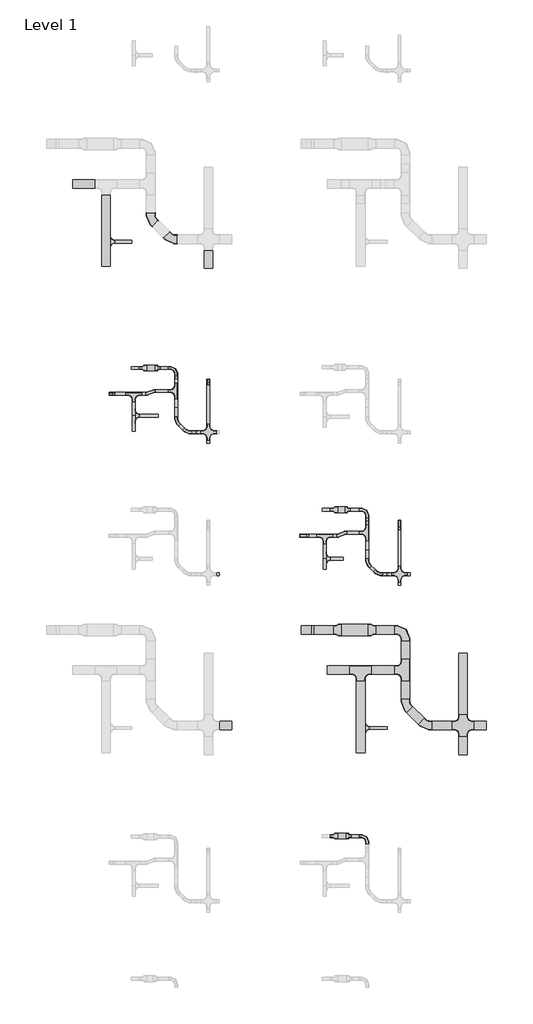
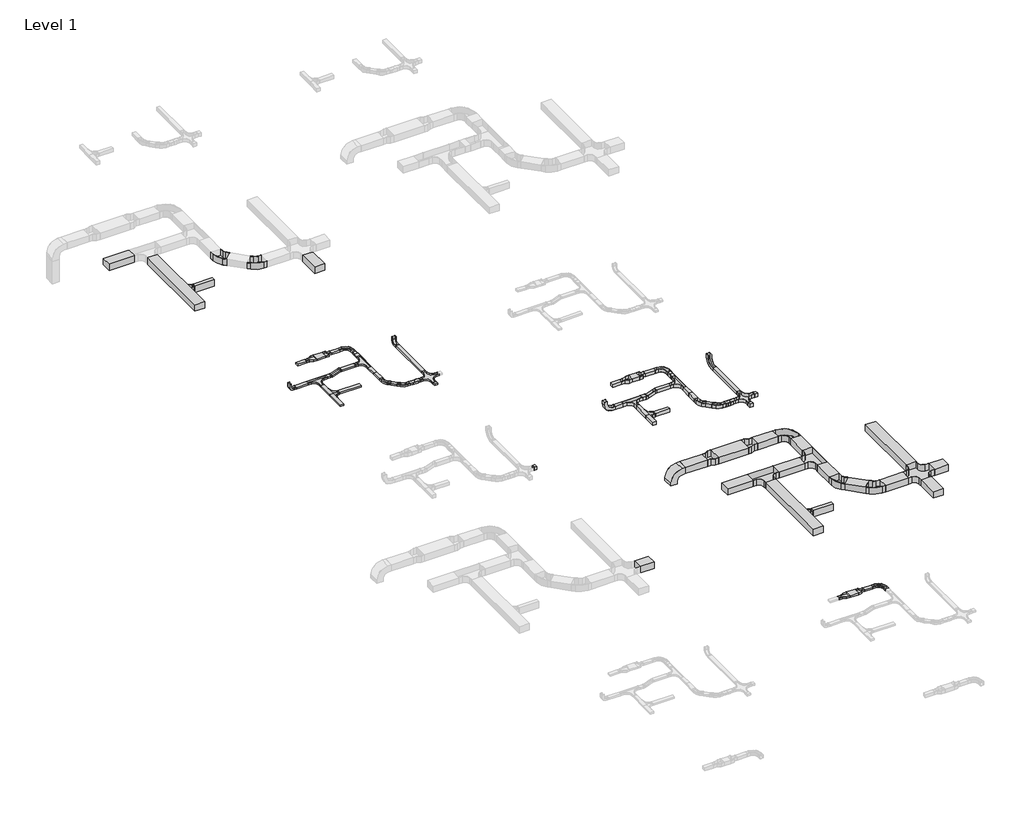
# One storey, part 5 of 7: 59 cable carrier segments, 44 cable carrier fittings.
"""IFC4 building model written with IfcOpenShell, lengths in millimetres."""

from ifc_helpers import new_model, si_unit, frame, origin, origin_with_axes, place, context, project, spatial, polyline, outline, extrude, transform, mapped, element, save
from components import cable_carrier_fitting_aaacfa07, cable_carrier_fitting_b0ef1419, cable_carrier_fitting_b06f5239, cable_carrier_fitting_c29a8226, cable_carrier_fitting_143960b7, cable_carrier_fitting_cc7a867a, cable_carrier_fitting_c2d22de5, cable_carrier_fitting_7e9f8960, cable_carrier_fitting_4de17e9c, cable_carrier_fitting_9eb58628, cable_carrier_fitting_43fa0a0a, cable_carrier_fitting_3771e234, cable_carrier_fitting_3d14474d, cable_carrier_fitting_02b181c7, cable_carrier_fitting_d4cb8d73, cable_carrier_fitting_69659a00, cable_carrier_fitting_f591b558, cable_carrier_fitting_a9251f7c, cable_carrier_fitting_ed02f7b7, cable_carrier_fitting_91e97af7, cable_carrier_fitting_4019ad99, cable_carrier_fitting_eaf42c59, cable_carrier_fitting_6664680e, cable_carrier_fitting_0d8af748, cable_carrier_fitting_d9c8c3b4, cable_carrier_fitting_cb4cf4fc, rkh100_6825da00, rkh50_caab6538

model = new_model("IFC4")

# Units and contexts
model_context = context("Model", 3, world=origin())
ifc_project = project(units=[si_unit("LENGTHUNIT", "METRE", prefix="MILLI")], contexts=[model_context])

# Site, building, storey
site = spatial("IfcSite", under=ifc_project)
building = spatial("IfcBuilding", under=site)
storey = spatial("IfcBuildingStorey", under=building, Name="Level 1", Elevation=0.0)

# Cable carrier fittings
placement = place(None, origin())
cable_carrier_fitting_shape = cable_carrier_fitting_aaacfa07(model_context)
element("IfcCableCarrierFitting", 1, ObjectType="BAKS_Plate_connector : LZCH100", at=placement, inside=storey, context=model_context, shape_type="MappedRepresentation", body=[
    mapped(cable_carrier_fitting_shape, transform((-10770.1659964, 47149.0221963, 50.0), x_axis=(0.0, -1.0, 0.0), y_axis=(1.0, 0.0, 0.0), z_axis=(0.0, 0.0, 1.0))),
])
element("IfcCableCarrierFitting", 2, ObjectType="BAKS_Plate_connector : LZCH100", at=placement, inside=storey, context=model_context, shape_type="MappedRepresentation", body=[
    mapped(cable_carrier_fitting_shape, transform((-10081.6917019, 45308.6669458, 50.0), x_axis=(-1.0, 0.0, 0.0), y_axis=(0.0, -1.0, 0.0), z_axis=(0.0, 0.0, 1.0))),
])
cable_carrier_fitting_2_shape = cable_carrier_fitting_b0ef1419(model_context)
element("IfcCableCarrierFitting", 3, ObjectType="BAKS_Plate_connector : LZCH50", at=placement, inside=storey, context=model_context, shape_type="MappedRepresentation", body=[
    mapped(cable_carrier_fitting_2_shape, transform((-17370.1659964, 52049.0221963, 50.0), x_axis=(0.0, -1.0, 0.0), y_axis=(1.0, 0.0, 0.0), z_axis=(0.0, 0.0, 1.0))),
])
element("IfcCableCarrierFitting", 4, ObjectType="BAKS_Plate_connector : LZCH50", at=placement, inside=storey, context=model_context, shape_type="MappedRepresentation", body=[
    mapped(cable_carrier_fitting_2_shape, transform((-16681.6917019, 50208.6669458, 50.0), x_axis=(-1.0, 0.0, 0.0), y_axis=(0.0, -1.0, 0.0), z_axis=(0.0, 0.0, 1.0))),
])
cable_carrier_fitting_3_shape = cable_carrier_fitting_b06f5239(model_context)
element("IfcCableCarrierFitting", 5, ObjectType="BAKS_Tee_TKZD : TKZDPH200", at=placement, inside=storey, context=model_context, shape_type="MappedRepresentation", body=[
    mapped(cable_carrier_fitting_3_shape, transform((-19642.1461338, 56790.6717205, 0.0), x_axis=(0.0, 1.0, 0.0), y_axis=(-1.0, 0.0, 0.0), z_axis=(0.0, 0.0, 1.0))),
])
element("IfcCableCarrierFitting", 6, ObjectType="BAKS_Tee_TKZD : TKZDPH200", at=placement, inside=storey, context=model_context, shape_type="MappedRepresentation", body=[
    mapped(cable_carrier_fitting_3_shape, transform((-10842.1461338, 39990.6717205, 0.0), x_axis=(0.0, 1.0, 0.0), y_axis=(-1.0, 0.0, 0.0), z_axis=(0.0, 0.0, 1.0))),
])
cable_carrier_fitting_4_shape = cable_carrier_fitting_c29a8226(model_context)
element("IfcCableCarrierFitting", 7, ObjectType="BAKS_Tee_TKZD : TKZDPH50", at=placement, inside=storey, context=model_context, shape_type="MappedRepresentation", body=[
    mapped(cable_carrier_fitting_4_shape, transform((-18785.25983, 50776.7469669, 50.0), x_axis=(0.0, 1.0, 0.0), y_axis=(-1.0, 0.0, 0.0), z_axis=(0.0, 0.0, 1.0))),
])
cable_carrier_fitting_5_shape = cable_carrier_fitting_143960b7(model_context)
element("IfcCableCarrierFitting", 8, ObjectType="BAKS_Tee_TKZD : TKZDPH100", at=placement, inside=storey, context=model_context, shape_type="MappedRepresentation", body=[
    mapped(cable_carrier_fitting_5_shape, transform((-12185.25983, 45837.8311496, 50.0), x_axis=(0.0, 1.0, 0.0), y_axis=(-1.0, 0.0, 0.0), z_axis=(0.0, 0.0, 1.0))),
])
cable_carrier_fitting_6_shape = cable_carrier_fitting_cc7a867a(model_context)
element("IfcCableCarrierFitting", 9, ObjectType="BAKS_Tee_TKZ : TKZPH50", at=placement, inside=storey, context=model_context, shape_type="MappedRepresentation", body=[
    mapped(cable_carrier_fitting_6_shape, transform((-18835.25983, 51536.0286879, 50.0), x_axis=(1.0, 0.0, 0.0), y_axis=(0.0, 1.0, 0.0), z_axis=(0.0, 0.0, 1.0))),
])
element("IfcCableCarrierFitting", 10, ObjectType="BAKS_Tee_TKZ : TKZPH50", at=placement, inside=storey, context=model_context, shape_type="MappedRepresentation", body=[
    mapped(cable_carrier_fitting_6_shape, transform((-17370.1659964, 51636.0286879, 50.0), x_axis=(0.0, -1.0, 0.0), y_axis=(1.0, 0.0, 0.0), z_axis=(0.0, 0.0, 1.0))),
])
cable_carrier_fitting_7_shape = cable_carrier_fitting_c2d22de5(model_context)
element("IfcCableCarrierFitting", 11, ObjectType="BAKS_Tee_TKZ : TKZCH100", at=placement, inside=storey, context=model_context, shape_type="MappedRepresentation", body=[
    mapped(cable_carrier_fitting_7_shape, transform((-12235.25983, 46636.0286879, 50.0), x_axis=(1.0, 0.0, 0.0), y_axis=(0.0, 1.0, 0.0), z_axis=(0.0, 0.0, 1.0))),
])
element("IfcCableCarrierFitting", 12, ObjectType="BAKS_Tee_TKZ : TKZCH100", at=placement, inside=storey, context=model_context, shape_type="MappedRepresentation", body=[
    mapped(cable_carrier_fitting_7_shape, transform((-10770.1659964, 46736.0286879, 50.0), x_axis=(0.0, -1.0, 0.0), y_axis=(1.0, 0.0, 0.0), z_axis=(0.0, 0.0, 1.0))),
])
cable_carrier_fitting_8_shape = cable_carrier_fitting_7e9f8960(model_context)
element("IfcCableCarrierFitting", 13, ObjectType="BAKS_Cross-section_CZKZ : CZKZCH100", at=placement, inside=storey, context=model_context, shape_type="MappedRepresentation", body=[
    mapped(cable_carrier_fitting_8_shape, transform((-9653.0791495, 45308.6669458, 50.0), x_axis=(1.0, 0.0, 0.0), y_axis=(0.0, 1.0, 0.0), z_axis=(0.0, 0.0, 1.0))),
])
cable_carrier_fitting_9_shape = cable_carrier_fitting_4de17e9c(model_context)
element("IfcCableCarrierFitting", 14, ObjectType="BAKS_Cross-section_CZKZ : CZKZPH50", at=placement, inside=storey, context=model_context, shape_type="MappedRepresentation", body=[
    mapped(cable_carrier_fitting_9_shape, transform((-16253.0791495, 50208.6669458, 50.0), x_axis=(-1.0, 0.0, 0.0), y_axis=(0.0, -1.0, 0.0), z_axis=(0.0, 0.0, 1.0))),
])
cable_carrier_fitting_10_shape = cable_carrier_fitting_9eb58628(model_context)
element("IfcCableCarrierFitting", 15, ObjectType="BAKS_Reduction-symmetrical_RKZ : RKZPH50", at=placement, inside=storey, context=model_context, shape_type="MappedRepresentation", body=[
    mapped(cable_carrier_fitting_10_shape, transform((-18365.6659964, 52432.0157047, 50.0), x_axis=(-1.0, 0.0, 0.0), y_axis=(0.0, -1.0, 0.0), z_axis=(0.0, 0.0, 1.0))),
])
element("IfcCableCarrierFitting", 16, ObjectType="BAKS_Reduction-symmetrical_RKZ : RKZCH50", at=placement, inside=storey, context=model_context, shape_type="MappedRepresentation", body=[
    mapped(cable_carrier_fitting_10_shape, transform((-11765.6659964, 36257.0157047, 50.0), x_axis=(-1.0, 0.0, 0.0), y_axis=(0.0, -1.0, 0.0), z_axis=(0.0, 0.0, 1.0))),
])
cable_carrier_fitting_11_shape = cable_carrier_fitting_43fa0a0a(model_context)
element("IfcCableCarrierFitting", 17, ObjectType="BAKS_Reduction-symmetrical_RKZ : RKZCH100", at=placement, inside=storey, context=model_context, shape_type="MappedRepresentation", body=[
    mapped(cable_carrier_fitting_11_shape, transform((-11765.6659964, 47532.0157047, 50.0), x_axis=(-1.0, 0.0, 0.0), y_axis=(0.0, -1.0, 0.0), z_axis=(0.0, 0.0, 1.0))),
])
cable_carrier_fitting_12_shape = cable_carrier_fitting_3771e234(model_context)
element("IfcCableCarrierFitting", 18, ObjectType="BAKS_Bypass_horizontal_left_OPZL : OPZLCH100", at=placement, inside=storey, context=model_context, shape_type="MappedRepresentation", body=[
    mapped(cable_carrier_fitting_12_shape, transform((-11655.25983, 46686.0286879, 0.0), x_axis=(1.0, 0.0, 0.0), y_axis=(0.0, 1.0, 0.0), z_axis=(0.0, 0.0, 1.0))),
])
cable_carrier_fitting_13_shape = cable_carrier_fitting_3d14474d(model_context)
element("IfcCableCarrierFitting", 19, ObjectType="BAKS_Bypass_horizontal_left_OPZL : OPZLPH50", at=placement, inside=storey, context=model_context, shape_type="MappedRepresentation", body=[
    mapped(cable_carrier_fitting_13_shape, transform((-18255.25983, 51586.0286879, 25.0), x_axis=(1.0, 0.0, 0.0), y_axis=(0.0, 1.0, 0.0), z_axis=(0.0, 0.0, 1.0))),
])
cable_carrier_fitting_14_shape = cable_carrier_fitting_02b181c7(model_context)
element("IfcCableCarrierFitting", 20, ObjectType="BAKS_Elbow_KKZ : KKZP/KKZMP...H50", at=placement, inside=storey, context=model_context, shape_type="MappedRepresentation", body=[
    mapped(cable_carrier_fitting_14_shape, transform((-16999.0048312, 50208.6669458, 50.0), x_axis=(0.7071067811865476, -0.7071067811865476, 0.0), y_axis=(0.7071067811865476, 0.7071067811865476, 0.0), z_axis=(0.0, 0.0, 1.0))),
])
element("IfcCableCarrierFitting", 21, ObjectType="BAKS_Elbow_KKZ : KKZP/KKZMP...H50", at=placement, inside=storey, context=model_context, shape_type="MappedRepresentation", body=[
    mapped(cable_carrier_fitting_14_shape, transform((-17370.1659964, 50579.8281111, 50.0), x_axis=(0.0, -1.0, 0.0), y_axis=(1.0, 0.0, 0.0), z_axis=(0.0, 0.0, 1.0))),
])
cable_carrier_fitting_15_shape = cable_carrier_fitting_d4cb8d73(model_context)
element("IfcCableCarrierFitting", 22, ObjectType="BAKS_Elbow_KKZ : KKZC/KKZMC...H100", at=placement, inside=storey, context=model_context, shape_type="MappedRepresentation", body=[
    mapped(cable_carrier_fitting_15_shape, transform((-10399.0048312, 45308.6669458, 50.0), x_axis=(0.7071067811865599, -0.7071067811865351, 0.0), y_axis=(0.7071067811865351, 0.7071067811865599, 0.0), z_axis=(0.0, 0.0, 1.0))),
])
element("IfcCableCarrierFitting", 23, ObjectType="BAKS_Elbow_KKZ : KKZC/KKZMC...H100", at=placement, inside=storey, context=model_context, shape_type="MappedRepresentation", body=[
    mapped(cable_carrier_fitting_15_shape, transform((-10770.1659964, 45679.8281111, 50.0), x_axis=(0.0, -1.0, 0.0), y_axis=(1.0, 0.0, 0.0), z_axis=(0.0, 0.0, 1.0))),
])
cable_carrier_fitting_16_shape = cable_carrier_fitting_69659a00(model_context)
element("IfcCableCarrierFitting", 24, ObjectType="BAKS_Elbow_KKZ : KKZC/KKZMC...H100", at=placement, inside=storey, context=model_context, shape_type="MappedRepresentation", body=[
    mapped(cable_carrier_fitting_16_shape, transform((-10770.1659964, 47532.0157047, 50.0), x_axis=(0.0, 1.0, 0.0), y_axis=(-1.0, 0.0, 0.0), z_axis=(0.0, 0.0, 1.0))),
])
cable_carrier_fitting_17_shape = cable_carrier_fitting_f591b558(model_context)
element("IfcCableCarrierFitting", 25, ObjectType="BAKS_Elbow_KKZ : KKZC/KKZMC...H50", at=placement, inside=storey, context=model_context, shape_type="MappedRepresentation", body=[
    mapped(cable_carrier_fitting_17_shape, transform((-10770.1659964, 36257.0157047, 50.0), x_axis=(0.0, 1.0, 0.0), y_axis=(-1.0, 0.0, 0.0), z_axis=(0.0, 0.0, 1.0))),
])
element("IfcCableCarrierFitting", 26, ObjectType="BAKS_Elbow_KKZ : KKZP/KKZMP...H50", at=placement, inside=storey, context=model_context, shape_type="MappedRepresentation", body=[
    mapped(cable_carrier_fitting_17_shape, transform((-17370.1659964, 52432.0157047, 50.0), x_axis=(0.0, 1.0, 0.0), y_axis=(-1.0, 0.0, 0.0), z_axis=(0.0, 0.0, 1.0))),
])
cable_carrier_fitting_18_shape = cable_carrier_fitting_a9251f7c(model_context)
element("IfcCableCarrierFitting", 27, ObjectType="BAKS_Vertical_bend_int : LZWPH50/LZWMPH50", at=placement, inside=storey, context=model_context, shape_type="MappedRepresentation", body=[
    mapped(cable_carrier_fitting_18_shape, transform((-19652.5998175, 51536.0286879, 50.0), x_axis=(-1.0, 0.0, 0.0), y_axis=(0.0, 0.0, 1.0), z_axis=(0.0, 1.0, 0.0))),
])
element("IfcCableCarrierFitting", 28, ObjectType="BAKS_Vertical_bend_int : LZWPH50/LZWMPH50", at=placement, inside=storey, context=model_context, shape_type="MappedRepresentation", body=[
    mapped(cable_carrier_fitting_18_shape, transform((-16253.0791495, 52018.5286879, 50.0), x_axis=(0.0, 1.0, 0.0), y_axis=(0.0, 0.0, 1.0), z_axis=(1.0, 0.0, 0.0))),
])
cable_carrier_fitting_19_shape = cable_carrier_fitting_ed02f7b7(model_context)
element("IfcCableCarrierFitting", 29, ObjectType="BAKS_Vertical_bend_int : LZWCH100/LZWMCH100", at=placement, inside=storey, context=model_context, shape_type="MappedRepresentation", body=[
    mapped(cable_carrier_fitting_19_shape, transform((-13052.5998175, 46636.0286879, 50.0), x_axis=(-1.0, 0.0, 0.0), y_axis=(0.0, 0.0, 1.0), z_axis=(0.0, 1.0, 0.0))),
])
element("IfcCableCarrierFitting", 30, ObjectType="BAKS_Vertical_bend_int : LZWCH100/LZWMCH100", at=placement, inside=storey, context=model_context, shape_type="MappedRepresentation", body=[
    mapped(cable_carrier_fitting_19_shape, transform((-9653.0791495, 47118.5286879, 50.0), x_axis=(0.0, 1.0, 0.0), y_axis=(0.0, 0.0, 1.0), z_axis=(1.0, 0.0, 0.0))),
])
cable_carrier_fitting_20_shape = cable_carrier_fitting_91e97af7(model_context)
element("IfcCableCarrierFitting", 31, ObjectType="BAKS_Elbow_KKZ : KKZP/KKZMP...H200", at=placement, inside=storey, context=model_context, shape_type="MappedRepresentation", body=[
    mapped(cable_carrier_fitting_20_shape, transform((-17547.1134218, 56877.2563463, 50.0), x_axis=(0.7071067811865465, -0.7071067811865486, 0.0), y_axis=(0.7071067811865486, 0.7071067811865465, 0.0), z_axis=(0.0, 0.0, 1.0))),
])
element("IfcCableCarrierFitting", 32, ObjectType="BAKS_Elbow_KKZ : KKZP/KKZMP...H200", at=placement, inside=storey, context=model_context, shape_type="MappedRepresentation", body=[
    mapped(cable_carrier_fitting_20_shape, transform((-18247.1461338, 57577.2890583, 50.0), x_axis=(0.0, -1.0, 0.0), y_axis=(1.0, 0.0, 0.0), z_axis=(0.0, 0.0, 1.0))),
])
cable_carrier_fitting_21_shape = cable_carrier_fitting_4019ad99(model_context)
element("IfcCableCarrierFitting", 33, ObjectType="BAKS_Vertical_bend_int : LZWPH200/LZWMPH200", at=placement, inside=storey, context=model_context, shape_type="MappedRepresentation", body=[
    mapped(cable_carrier_fitting_21_shape, transform((-12947.1461338, 43377.2890583, 50.0), x_axis=(-1.0, 0.0, 0.0), y_axis=(0.0, 0.0, -1.0), z_axis=(0.0, -1.0, 0.0))),
])
element("IfcCableCarrierFitting", 34, ObjectType="BAKS_Elbow_KKZ : KKZC/KKZMC...H200", at=placement, inside=storey, context=model_context, shape_type="MappedRepresentation", body=[
    mapped(cable_carrier_fitting_20_shape, transform((-8747.1134218, 40077.2563463, 50.0), x_axis=(0.7071067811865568, -0.7071067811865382, 0.0), y_axis=(0.7071067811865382, 0.7071067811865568, 0.0), z_axis=(0.0, 0.0, 1.0))),
])
element("IfcCableCarrierFitting", 35, ObjectType="BAKS_Elbow_KKZ : KKZC/KKZMC...H200", at=placement, inside=storey, context=model_context, shape_type="MappedRepresentation", body=[
    mapped(cable_carrier_fitting_20_shape, transform((-9447.1461338, 40777.2890583, 50.0), x_axis=(0.0, -1.0, 0.0), y_axis=(1.0, 0.0, 0.0), z_axis=(0.0, 0.0, 1.0))),
])
cable_carrier_fitting_22_shape = cable_carrier_fitting_eaf42c59(model_context)
element("IfcCableCarrierFitting", 36, ObjectType="BAKS_Elbow_KKZ : KKZC/KKZMC...H200", at=placement, inside=storey, context=model_context, shape_type="MappedRepresentation", body=[
    mapped(cable_carrier_fitting_22_shape, transform((-9447.1461338, 43377.2890583, 50.0), x_axis=(0.0, 1.0, 0.0), y_axis=(-1.0, 0.0, 0.0), z_axis=(0.0, 0.0, 1.0))),
])
cable_carrier_fitting_23_shape = cable_carrier_fitting_6664680e(model_context)
element("IfcCableCarrierFitting", 37, ObjectType="BAKS_Cross-section_CZKZ : CZKZCH200", at=placement, inside=storey, context=model_context, shape_type="MappedRepresentation", body=[
    mapped(cable_carrier_fitting_23_shape, transform((-7453.0791495, 40077.2563463, 50.0), x_axis=(1.0, 0.0, 0.0), y_axis=(0.0, 1.0, 0.0), z_axis=(0.0, 0.0, 1.0))),
])
cable_carrier_fitting_24_shape = cable_carrier_fitting_0d8af748(model_context)
element("IfcCableCarrierFitting", 38, ObjectType="BAKS_Tee_TKZ : TKZCH200", at=placement, inside=storey, context=model_context, shape_type="MappedRepresentation", body=[
    mapped(cable_carrier_fitting_24_shape, transform((-9447.1461338, 41992.3500248, 50.0), x_axis=(0.0, -1.0, 0.0), y_axis=(1.0, 0.0, 0.0), z_axis=(0.0, 0.0, 1.0))),
])
element("IfcCableCarrierFitting", 39, ObjectType="BAKS_Tee_TKZ : TKZCH200", at=placement, inside=storey, context=model_context, shape_type="MappedRepresentation", body=[
    mapped(cable_carrier_fitting_24_shape, transform((-10992.1461338, 41992.3500248, 50.0), x_axis=(1.0, 0.0, 0.0), y_axis=(0.0, 1.0, 0.0), z_axis=(0.0, 0.0, 1.0))),
])
cable_carrier_fitting_25_shape = cable_carrier_fitting_d9c8c3b4(model_context)
element("IfcCableCarrierFitting", 40, ObjectType="BAKS_Reduction-symmetrical_RKZ : RKZCH200", at=placement, inside=storey, context=model_context, shape_type="MappedRepresentation", body=[
    mapped(cable_carrier_fitting_25_shape, transform((-11647.1461338, 43377.2890583, 50.0), x_axis=(-1.0, 0.0, 0.0), y_axis=(0.0, -1.0, 0.0), z_axis=(0.0, 0.0, 1.0))),
])
cable_carrier_fitting_26_shape = cable_carrier_fitting_cb4cf4fc(model_context)
element("IfcCableCarrierFitting", 41, ObjectType="BAKS_Reduction-symmetrical_RKZ : RKZCH200", at=placement, inside=storey, context=model_context, shape_type="MappedRepresentation", body=[
    mapped(cable_carrier_fitting_26_shape, transform((-10447.1461338, 43377.2890583, 50.0), x_axis=(-1.0, 0.0, 0.0), y_axis=(0.0, -1.0, 0.0), z_axis=(0.0, 0.0, 1.0))),
])
rkh100_shape = rkh100_6825da00(model_context)
element("IfcCableCarrierFitting", 42, ObjectType="BAKS_Reduction-angular_RK : RKH100", at=placement, inside=storey, context=model_context, shape_type="MappedRepresentation", body=[
    mapped(rkh100_shape, transform((-11548.8021293, 47532.0157047, 50.0), x_axis=(1.0, 0.0, 0.0), y_axis=(0.0, 1.0, 0.0), z_axis=(0.0, 0.0, 1.0))),
])
rkh50_shape = rkh50_caab6538(model_context)
element("IfcCableCarrierFitting", 43, ObjectType="BAKS_Reduction-angular_RK : RKH50", at=placement, inside=storey, context=model_context, shape_type="MappedRepresentation", body=[
    mapped(rkh50_shape, transform((-18112.7327949, 52432.0157047, 50.0), x_axis=(1.0, 0.0, 0.0), y_axis=(0.0, 1.0, 0.0), z_axis=(0.0, 0.0, 1.0))),
])
element("IfcCableCarrierFitting", 44, ObjectType="BAKS_Reduction-angular_RK : RKH50", at=placement, inside=storey, context=model_context, shape_type="MappedRepresentation", body=[
    mapped(rkh50_shape, transform((-11512.2318441, 36257.0157047, 50.0), x_axis=(1.0, 0.0, 0.0), y_axis=(0.0, 1.0, 0.0), z_axis=(0.0, 0.0, 1.0))),
])

# Cable carrier segments
element("IfcCableCarrierSegment", 45, ObjectType="BAKS - Cable tray with welded connector H50 (KZLP)", at=placement, inside=storey, context=model_context, shape_type="SweptSolid", body=[
    extrude(outline(polyline([(-18112.7327949, 52532.0157047), (-18112.7327949, 52332.0157047), (-18365.6659964, 52332.0157047), (-18365.6659964, 52532.0157047), (-18112.7327949, 52532.0157047)])), frame((0.0, 0.0, 25.0), z_axis=(0.0, 0.0, 1.0), x_axis=(1.0, 0.0, 0.0)), (0.0, 0.0, 1.0), 50.0),
])
element("IfcCableCarrierSegment", 46, ObjectType="BAKS - Cable tray with welded connector H50 (KZLP)", at=placement, inside=storey, context=model_context, shape_type="SweptSolid", body=[
    extrude(outline(polyline([(-18665.6659964, 52482.0157047), (-18665.6659964, 52382.0157047), (-18924.6659964, 52382.0157047), (-18924.6659964, 52482.0157047), (-18665.6659964, 52482.0157047)])), frame((0.0, 0.0, 25.0), z_axis=(0.0, 0.0, 1.0), x_axis=(1.0, 0.0, 0.0)), (0.0, 0.0, 1.0), 50.0),
])
element("IfcCableCarrierSegment", 47, ObjectType="BAKS - Cable tray with welded connector H50 (KZLP)", at=placement, inside=storey, context=model_context, shape_type="SweptSolid", body=[
    extrude(outline(polyline([(-18445.25983, 51586.0286879), (-18445.25983, 51486.0286879), (-18545.25983, 51486.0286879), (-18545.25983, 51586.0286879), (-18445.25983, 51586.0286879)])), frame((0.0, 0.0, 25.0), z_axis=(0.0, 0.0, 1.0), x_axis=(1.0, 0.0, 0.0)), (0.0, 0.0, 1.0), 50.0),
])
element("IfcCableCarrierSegment", 48, ObjectType="BAKS - Cable tray with welded connector H50 (KZLP)", at=placement, inside=storey, context=model_context, shape_type="SweptSolid", body=[
    extrude(outline(polyline([(-18885.25983, 51246.0286879), (-18785.25983, 51246.0286879), (-18785.25983, 50777.2890583), (-18885.25983, 50777.2890583), (-18885.25983, 51246.0286879)])), frame((0.0, 0.0, 25.0), z_axis=(0.0, 0.0, 1.0), x_axis=(1.0, 0.0, 0.0)), (0.0, 0.0, 1.0), 50.0),
])
element("IfcCableCarrierSegment", 49, ObjectType="BAKS - Cable tray with welded connector H50 (KZLP)", at=placement, inside=storey, context=model_context, shape_type="SweptSolid", body=[
    extrude(outline(polyline([(-18620.17983, 50726.7469669), (-18620.17983, 50826.7469669), (-17982.25983, 50826.7469669), (-17982.25983, 50726.7469669), (-18620.17983, 50726.7469669)])), frame((0.0, 0.0, 25.0), z_axis=(0.0, 0.0, 1.0), x_axis=(1.0, 0.0, 0.0)), (0.0, 0.0, 1.0), 50.0),
])
element("IfcCableCarrierSegment", 50, ObjectType="BAKS - Cable tray with welded connector H50 (KZLP)", at=placement, inside=storey, context=model_context, shape_type="SweptSolid", body=[
    extrude(outline(polyline([(-19125.25983, 51586.0286879), (-19125.25983, 51486.0286879), (-19467.5998175, 51486.0286879), (-19467.5998175, 51586.0286879), (-19125.25983, 51586.0286879)])), frame((0.0, 0.0, 25.0), z_axis=(0.0, 0.0, 1.0), x_axis=(1.0, 0.0, 0.0)), (0.0, 0.0, 1.0), 50.0),
])
element("IfcCableCarrierSegment", 51, ObjectType="BAKS - Cable tray with welded connector H50 (KZLP)", at=placement, inside=storey, context=model_context, shape_type="SweptSolid", body=[
    extrude(outline(polyline([(-16203.0791495, 50498.6669458), (-16303.0791495, 50498.6669458), (-16303.0791495, 51833.5286879), (-16203.0791495, 51833.5286879), (-16203.0791495, 50498.6669458)])), frame((0.0, 0.0, 25.0), z_axis=(0.0, 0.0, 1.0), x_axis=(1.0, 0.0, 0.0)), (0.0, 0.0, 1.0), 50.0),
])
element("IfcCableCarrierSegment", 52, ObjectType="BAKS - Cable tray with welded connector H100 (KZLC)", at=placement, inside=storey, context=model_context, shape_type="SweptSolid", body=[
    extrude(outline(polyline([(-12065.6659964, 47582.0157047), (-12065.6659964, 47482.0157047), (-12324.6659964, 47482.0157047), (-12324.6659964, 47582.0157047), (-12065.6659964, 47582.0157047)])), origin_with_axes(), (0.0, 0.0, 1.0), 100.0),
])
element("IfcCableCarrierSegment", 53, ObjectType="BAKS - Cable tray with welded connector H100 (KZLC)", at=placement, inside=storey, context=model_context, shape_type="SweptSolid", body=[
    extrude(outline(polyline([(-11765.6659964, 47432.0157047), (-11765.6659964, 47632.0157047), (-11548.8021293, 47632.0157047), (-11548.8021293, 47432.0157047), (-11765.6659964, 47432.0157047)])), origin_with_axes(), (0.0, 0.0, 1.0), 100.0),
])
element("IfcCableCarrierSegment", 54, ObjectType="BAKS - Cable tray with welded connector H100 (KZLC)", at=placement, inside=storey, context=model_context, shape_type="SweptSolid", body=[
    extrude(outline(polyline([(-11845.25983, 46686.0286879), (-11845.25983, 46586.0286879), (-11945.25983, 46586.0286879), (-11945.25983, 46686.0286879), (-11845.25983, 46686.0286879)])), origin_with_axes(), (0.0, 0.0, 1.0), 100.0),
])
element("IfcCableCarrierSegment", 55, ObjectType="BAKS - Cable tray with welded connector H100 (KZLC)", at=placement, inside=storey, context=model_context, shape_type="SweptSolid", body=[
    extrude(outline(polyline([(-12762.5998175, 46586.0286879), (-12762.5998175, 46686.0286879), (-12525.25983, 46686.0286879), (-12525.25983, 46586.0286879), (-12762.5998175, 46586.0286879)])), origin_with_axes(), (0.0, 0.0, 1.0), 100.0),
])
element("IfcCableCarrierSegment", 56, ObjectType="BAKS - Cable tray with welded connector H100 (KZLC)", at=placement, inside=storey, context=model_context, shape_type="SweptSolid", body=[
    extrude(outline(polyline([(-12285.25983, 46346.0286879), (-12185.25983, 46346.0286879), (-12185.25983, 45838.373241), (-12285.25983, 45838.373241), (-12285.25983, 46346.0286879)])), origin_with_axes(), (0.0, 0.0, 1.0), 100.0),
])
element("IfcCableCarrierSegment", 57, ObjectType="BAKS - Cable tray with welded connector H100 (KZLC)", at=placement, inside=storey, context=model_context, shape_type="SweptSolid", body=[
    extrude(outline(polyline([(-12285.25983, 45837.2890583), (-12185.25983, 45837.2890583), (-12185.25983, 45477.2890583), (-12285.25983, 45477.2890583), (-12285.25983, 45837.2890583)])), origin_with_axes(), (0.0, 0.0, 1.0), 100.0),
])
element("IfcCableCarrierSegment", 58, ObjectType="BAKS - Reinforced cable tray H50 (KZWC)", at=placement, inside=storey, context=model_context, shape_type="SweptSolid", body=[
    extrude(outline(polyline([(-11512.2318441, 36357.0157047), (-11512.2318441, 36157.0157047), (-11765.6659964, 36157.0157047), (-11765.6659964, 36357.0157047), (-11512.2318441, 36357.0157047)])), frame((0.0, 0.0, 25.0), z_axis=(0.0, 0.0, 1.0), x_axis=(1.0, 0.0, 0.0)), (0.0, 0.0, 1.0), 50.0),
])
element("IfcCableCarrierSegment", 59, ObjectType="BAKS - Cable tray with welded connector H50 (KZLP)", at=placement, inside=storey, context=model_context, shape_type="SweptSolid", body=[
    extrude(outline(polyline([(-17420.1659964, 51346.0286879), (-17320.1659964, 51346.0286879), (-17320.1659964, 51053.2786879), (-17420.1659964, 51053.2786879), (-17420.1659964, 51346.0286879)])), frame((0.0, 0.0, 25.0), z_axis=(0.0, 0.0, 1.0), x_axis=(1.0, 0.0, 0.0)), (0.0, 0.0, 1.0), 50.0),
])
element("IfcCableCarrierSegment", 60, ObjectType="BAKS - Cable tray with welded connector H50 (KZLP)", at=placement, inside=storey, context=model_context, shape_type="SweptSolid", body=[
    extrude(outline(polyline([(-16543.0791495, 50258.6669458), (-16543.0791495, 50158.6669458), (-16681.6917019, 50158.6669458), (-16681.6917019, 50258.6669458), (-16543.0791495, 50258.6669458)])), frame((0.0, 0.0, 25.0), z_axis=(0.0, 0.0, 1.0), x_axis=(1.0, 0.0, 0.0)), (0.0, 0.0, 1.0), 50.0),
])
element("IfcCableCarrierSegment", 61, ObjectType="BAKS - Cable tray with welded connector H50 (KZLP)", at=placement, inside=storey, context=model_context, shape_type="SweptSolid", body=[
    extrude(outline(polyline([(-16682.6917019, 50258.6669458), (-16682.6917019, 50158.6669458), (-16820.3042544, 50158.6669458), (-16820.3042544, 50258.6669458), (-16682.6917019, 50258.6669458)])), frame((0.0, 0.0, 25.0), z_axis=(0.0, 0.0, 1.0), x_axis=(1.0, 0.0, 0.0)), (0.0, 0.0, 1.0), 50.0),
])
element("IfcCableCarrierSegment", 62, ObjectType="BAKS - Cable tray with welded connector H50 (KZLP)", at=placement, inside=storey, context=model_context, shape_type="SweptSolid", body=[
    extrude(outline(polyline([(-17090.0098818, 50370.3826746), (-17160.72056, 50299.6719965), (-17279.1609458, 50418.1123823), (-17208.4502677, 50488.8230604), (-17090.0098818, 50370.3826746)])), frame((0.0, 0.0, 25.0), z_axis=(0.0, 0.0, 1.0), x_axis=(1.0, 0.0, 0.0)), (0.0, 0.0, 1.0), 50.0),
])
element("IfcCableCarrierSegment", 63, ObjectType="BAKS - Cable tray with welded connector H50 (KZLP)", at=placement, inside=storey, context=model_context, shape_type="SweptSolid", body=[
    extrude(outline(polyline([(-17320.1659964, 50758.5286879), (-17420.1659964, 50758.5286879), (-17420.1659964, 51052.2786879), (-17320.1659964, 51052.2786879), (-17320.1659964, 50758.5286879)])), frame((0.0, 0.0, 25.0), z_axis=(0.0, 0.0, 1.0), x_axis=(1.0, 0.0, 0.0)), (0.0, 0.0, 1.0), 50.0),
])
element("IfcCableCarrierSegment", 64, ObjectType="BAKS - Cable tray with welded connector H50 (KZLP)", at=placement, inside=storey, context=model_context, shape_type="SweptSolid", body=[
    extrude(outline(polyline([(-17902.7327949, 52382.0157047), (-17902.7327949, 52482.0157047), (-17660.1659964, 52482.0157047), (-17660.1659964, 52382.0157047), (-17902.7327949, 52382.0157047)])), frame((0.0, 0.0, 25.0), z_axis=(0.0, 0.0, 1.0), x_axis=(1.0, 0.0, 0.0)), (0.0, 0.0, 1.0), 50.0),
])
element("IfcCableCarrierSegment", 65, ObjectType="BAKS - Cable tray with welded connector H50 (KZLP)", at=placement, inside=storey, context=model_context, shape_type="SweptSolid", body=[
    extrude(outline(polyline([(-17420.1659964, 52142.0157047), (-17320.1659964, 52142.0157047), (-17320.1659964, 52049.0221963), (-17420.1659964, 52049.0221963), (-17420.1659964, 52142.0157047)])), frame((0.0, 0.0, 25.0), z_axis=(0.0, 0.0, 1.0), x_axis=(1.0, 0.0, 0.0)), (0.0, 0.0, 1.0), 50.0),
])
element("IfcCableCarrierSegment", 66, ObjectType="BAKS - Cable tray with welded connector H50 (KZLP)", at=placement, inside=storey, context=model_context, shape_type="SweptSolid", body=[
    extrude(outline(polyline([(-18065.25983, 51586.0286879), (-18065.25983, 51686.0286879), (-17660.1659964, 51686.0286879), (-17660.1659964, 51586.0286879), (-18065.25983, 51586.0286879)])), frame((0.0, 0.0, 25.0), z_axis=(0.0, 0.0, 1.0), x_axis=(1.0, 0.0, 0.0)), (0.0, 0.0, 1.0), 50.0),
])
element("IfcCableCarrierSegment", 67, ObjectType="BAKS - Cable tray with welded connector H50 (KZLP)", at=placement, inside=storey, context=model_context, shape_type="SweptSolid", body=[
    extrude(outline(polyline([(-16203.0791495, 49828.6910816), (-16303.0791495, 49828.6910816), (-16303.0791495, 49918.6669458), (-16203.0791495, 49918.6669458), (-16203.0791495, 49828.6910816)])), frame((0.0, 0.0, 25.0), z_axis=(0.0, 0.0, 1.0), x_axis=(1.0, 0.0, 0.0)), (0.0, 0.0, 1.0), 50.0),
])
element("IfcCableCarrierSegment", 68, ObjectType="BAKS - Cable tray with welded connector H50 (KZLP)", at=placement, inside=storey, context=model_context, shape_type="SweptSolid", body=[
    extrude(outline(polyline([(-17320.1659964, 51926.0286879), (-17420.1659964, 51926.0286879), (-17420.1659964, 52048.0221963), (-17320.1659964, 52048.0221963), (-17320.1659964, 51926.0286879)])), frame((0.0, 0.0, 25.0), z_axis=(0.0, 0.0, 1.0), x_axis=(1.0, 0.0, 0.0)), (0.0, 0.0, 1.0), 50.0),
])
element("IfcCableCarrierSegment", 69, ObjectType="BAKS - Cable tray with welded connector H100 (KZLP)", at=placement, inside=storey, context=model_context, shape_type="SweptSolid", body=[
    extrude(outline(polyline([(-15879.9791495, 45358.6669458), (-15879.9791495, 45258.6669458), (-15963.0791495, 45258.6669458), (-15963.0791495, 45358.6669458), (-15879.9791495, 45358.6669458)])), origin_with_axes(), (0.0, 0.0, 1.0), 100.0),
])
element("IfcCableCarrierSegment", 70, ObjectType="BAKS - Cable tray with welded connector H100 (KZLC)", at=placement, inside=storey, context=model_context, shape_type="SweptSolid", body=[
    extrude(outline(polyline([(-10820.1659964, 46446.0286879), (-10720.1659964, 46446.0286879), (-10720.1659964, 46153.2786879), (-10820.1659964, 46153.2786879), (-10820.1659964, 46446.0286879)])), origin_with_axes(), (0.0, 0.0, 1.0), 100.0),
])
element("IfcCableCarrierSegment", 71, ObjectType="BAKS - Cable tray with welded connector H100 (KZLC)", at=placement, inside=storey, context=model_context, shape_type="SweptSolid", body=[
    extrude(outline(polyline([(-9943.0791495, 45358.6669458), (-9943.0791495, 45258.6669458), (-10081.6917019, 45258.6669458), (-10081.6917019, 45358.6669458), (-9943.0791495, 45358.6669458)])), origin_with_axes(), (0.0, 0.0, 1.0), 100.0),
])
element("IfcCableCarrierSegment", 72, ObjectType="BAKS - Cable tray with welded connector H100 (KZLC)", at=placement, inside=storey, context=model_context, shape_type="SweptSolid", body=[
    extrude(outline(polyline([(-10082.6917019, 45358.6669458), (-10082.6917019, 45258.6669458), (-10220.3042544, 45258.6669458), (-10220.3042544, 45358.6669458), (-10082.6917019, 45358.6669458)])), origin_with_axes(), (0.0, 0.0, 1.0), 100.0),
])
element("IfcCableCarrierSegment", 73, ObjectType="BAKS - Cable tray with welded connector H100 (KZLC)", at=placement, inside=storey, context=model_context, shape_type="SweptSolid", body=[
    extrude(outline(polyline([(-10490.0098818, 45470.3826746), (-10560.72056, 45399.6719965), (-10679.1609458, 45518.1123823), (-10608.4502677, 45588.8230604), (-10490.0098818, 45470.3826746)])), origin_with_axes(), (0.0, 0.0, 1.0), 100.0),
])
element("IfcCableCarrierSegment", 74, ObjectType="BAKS - Cable tray with welded connector H100 (KZLC)", at=placement, inside=storey, context=model_context, shape_type="SweptSolid", body=[
    extrude(outline(polyline([(-10720.1659964, 45858.5286879), (-10820.1659964, 45858.5286879), (-10820.1659964, 46152.2786879), (-10720.1659964, 46152.2786879), (-10720.1659964, 45858.5286879)])), origin_with_axes(), (0.0, 0.0, 1.0), 100.0),
])
element("IfcCableCarrierSegment", 75, ObjectType="BAKS - Cable tray with welded connector H100 (KZLC)", at=placement, inside=storey, context=model_context, shape_type="SweptSolid", body=[
    extrude(outline(polyline([(-11338.8021293, 47482.0157047), (-11338.8021293, 47582.0157047), (-11060.1659964, 47582.0157047), (-11060.1659964, 47482.0157047), (-11338.8021293, 47482.0157047)])), origin_with_axes(), (0.0, 0.0, 1.0), 100.0),
])
element("IfcCableCarrierSegment", 76, ObjectType="BAKS - Cable tray with welded connector H100 (KZLC)", at=placement, inside=storey, context=model_context, shape_type="SweptSolid", body=[
    extrude(outline(polyline([(-10820.1659964, 47242.0157047), (-10720.1659964, 47242.0157047), (-10720.1659964, 47149.0221963), (-10820.1659964, 47149.0221963), (-10820.1659964, 47242.0157047)])), origin_with_axes(), (0.0, 0.0, 1.0), 100.0),
])
element("IfcCableCarrierSegment", 77, ObjectType="BAKS - Cable tray with welded connector H100 (KZLC)", at=placement, inside=storey, context=model_context, shape_type="SweptSolid", body=[
    extrude(outline(polyline([(-11465.25983, 46686.0286879), (-11465.25983, 46786.0286879), (-11060.1659964, 46786.0286879), (-11060.1659964, 46686.0286879), (-11465.25983, 46686.0286879)])), origin_with_axes(), (0.0, 0.0, 1.0), 100.0),
])
element("IfcCableCarrierSegment", 78, ObjectType="BAKS - Cable tray with welded connector H100 (KZLC)", at=placement, inside=storey, context=model_context, shape_type="SweptSolid", body=[
    extrude(outline(polyline([(-9278.9791495, 45358.6669458), (-9278.9791495, 45258.6669458), (-9363.0791495, 45258.6669458), (-9363.0791495, 45358.6669458), (-9278.9791495, 45358.6669458)])), origin_with_axes(), (0.0, 0.0, 1.0), 100.0),
])
element("IfcCableCarrierSegment", 79, ObjectType="BAKS - Cable tray with welded connector H100 (KZLC)", at=placement, inside=storey, context=model_context, shape_type="SweptSolid", body=[
    extrude(outline(polyline([(-9603.0791495, 44928.6669458), (-9703.0791495, 44928.6669458), (-9703.0791495, 45018.6669458), (-9603.0791495, 45018.6669458), (-9603.0791495, 44928.6669458)])), origin_with_axes(), (0.0, 0.0, 1.0), 100.0),
])
element("IfcCableCarrierSegment", 80, ObjectType="BAKS - Cable tray with welded connector H100 (KZLC)", at=placement, inside=storey, context=model_context, shape_type="SweptSolid", body=[
    extrude(outline(polyline([(-9703.0791495, 46828.5286879), (-9603.0791495, 46828.5286879), (-9603.0791495, 45598.6669458), (-9703.0791495, 45598.6669458), (-9703.0791495, 46828.5286879)])), origin_with_axes(), (0.0, 0.0, 1.0), 100.0),
])
element("IfcCableCarrierSegment", 81, ObjectType="BAKS - Cable tray with welded connector H100 (KZLC)", at=placement, inside=storey, context=model_context, shape_type="SweptSolid", body=[
    extrude(outline(polyline([(-10720.1659964, 47026.0286879), (-10820.1659964, 47026.0286879), (-10820.1659964, 47148.0221963), (-10720.1659964, 47148.0221963), (-10720.1659964, 47026.0286879)])), origin_with_axes(), (0.0, 0.0, 1.0), 100.0),
])
element("IfcCableCarrierSegment", 82, ObjectType="BAKS - Reinforced cable tray H50 (KZWC)", at=placement, inside=storey, context=model_context, shape_type="SweptSolid", body=[
    extrude(outline(polyline([(-11302.2318441, 36207.0157047), (-11302.2318441, 36307.0157047), (-11060.1659964, 36307.0157047), (-11060.1659964, 36207.0157047), (-11302.2318441, 36207.0157047)])), frame((0.0, 0.0, 25.0), z_axis=(0.0, 0.0, 1.0), x_axis=(1.0, 0.0, 0.0)), (0.0, 0.0, 1.0), 50.0),
])
element("IfcCableCarrierSegment", 83, ObjectType="BAKS - Cable tray with welded connector H50 (KZLP)", at=placement, inside=storey, context=model_context, shape_type="SweptSolid", body=[
    extrude(outline(polyline([(-18885.25983, 50776.2048756), (-18785.25983, 50776.2048756), (-18785.25983, 50236.2048756), (-18885.25983, 50236.2048756), (-18885.25983, 50776.2048756)])), frame((0.0, 0.0, 25.0), z_axis=(0.0, 0.0, 1.0), x_axis=(1.0, 0.0, 0.0)), (0.0, 0.0, 1.0), 50.0),
])
element("IfcCableCarrierSegment", 84, ObjectType="BAKS - Cable tray with welded connector H100 (KZLC)", at=placement, inside=storey, context=model_context, shape_type="SweptSolid", body=[
    extrude(outline(polyline([(-12020.17983, 45787.8311496), (-12020.17983, 45887.8311496), (-11600.17983, 45887.8311496), (-11600.17983, 45787.8311496), (-12020.17983, 45787.8311496)])), origin_with_axes(), (0.0, 0.0, 1.0), 100.0),
])
element("IfcCableCarrierSegment", 85, ObjectType="BAKS - Cable tray H200 (KZP)", at=placement, inside=storey, context=model_context, shape_type="SweptSolid", body=[
    extrude(outline(polyline([(-16403.0791495, 56487.2563463), (-16103.0791495, 56487.2563463), (-16103.0791495, 55868.7487616), (-16403.0791495, 55868.7487616), (-16403.0791495, 56487.2563463)])), frame((0.0, 0.0, -50.0), z_axis=(0.0, 0.0, 1.0), x_axis=(1.0, 0.0, 0.0)), (0.0, 0.0, 1.0), 200.0),
])
element("IfcCableCarrierSegment", 86, ObjectType="BAKS - Cable tray H200 (KZP)", at=placement, inside=storey, context=model_context, shape_type="SweptSolid", body=[
    extrude(outline(polyline([(-20182.1461338, 58942.3500248), (-20182.1461338, 58642.3500248), (-20947.1461338, 58642.3500248), (-20947.1461338, 58942.3500248), (-20182.1461338, 58942.3500248)])), frame((0.0, 0.0, -50.0), z_axis=(0.0, 0.0, 1.0), x_axis=(1.0, 0.0, 0.0)), (0.0, 0.0, 1.0), 200.0),
])
element("IfcCableCarrierSegment", 87, ObjectType="BAKS - Cable tray H200 (KZP)", at=placement, inside=storey, context=model_context, shape_type="SweptSolid", body=[
    extrude(outline(polyline([(-19942.1461338, 58402.3500248), (-19642.1461338, 58402.3500248), (-19642.1461338, 55942.3500248), (-19942.1461338, 55942.3500248), (-19942.1461338, 58402.3500248)])), frame((0.0, 0.0, -50.0), z_axis=(0.0, 0.0, 1.0), x_axis=(1.0, 0.0, 0.0)), (0.0, 0.0, 1.0), 200.0),
])
element("IfcCableCarrierSegment", 88, ObjectType="BAKS - Cable tray H200 (KZP)", at=placement, inside=storey, context=model_context, shape_type="SweptSolid", body=[
    extrude(outline(polyline([(-19479.1461338, 56740.6717205), (-19479.1461338, 56840.6717205), (-18899.1461338, 56840.6717205), (-18899.1461338, 56740.6717205), (-19479.1461338, 56740.6717205)])), frame((0.0, 0.0, -100.0), z_axis=(0.0, 0.0, 1.0), x_axis=(1.0, 0.0, 0.0)), (0.0, 0.0, 1.0), 200.0),
])
element("IfcCableCarrierSegment", 89, ObjectType="BAKS - Cable tray with welded connector H200 (KZLC)", at=placement, inside=storey, context=model_context, shape_type="SweptSolid", body=[
    extrude(outline(polyline([(-10679.1461338, 39940.6717205), (-10679.1461338, 40040.6717205), (-10079.1461338, 40040.6717205), (-10079.1461338, 39940.6717205), (-10679.1461338, 39940.6717205)])), frame((0.0, 0.0, -100.0), z_axis=(0.0, 0.0, 1.0), x_axis=(1.0, 0.0, 0.0)), (0.0, 0.0, 1.0), 200.0),
])
element("IfcCableCarrierSegment", 90, ObjectType="BAKS - Cable tray with welded connector H200 (KZLP)", at=placement, inside=storey, context=model_context, shape_type="SweptSolid", body=[
    extrude(outline(polyline([(-15447.1134218, 40227.2563463), (-15447.1134218, 39927.2563463), (-15863.0791495, 39927.2563463), (-15863.0791495, 40227.2563463), (-15447.1134218, 40227.2563463)])), frame((0.0, 0.0, -50.0), z_axis=(0.0, 0.0, 1.0), x_axis=(1.0, 0.0, 0.0)), (0.0, 0.0, 1.0), 200.0),
])
element("IfcCableCarrierSegment", 91, ObjectType="BAKS - Cable tray with welded connector H200 (KZLC)", at=placement, inside=storey, context=model_context, shape_type="SweptSolid", body=[
    extrude(outline(polyline([(-7843.0791495, 40227.2563463), (-7843.0791495, 39927.2563463), (-8526.9914888, 39927.2563463), (-8526.9914888, 40227.2563463), (-7843.0791495, 40227.2563463)])), frame((0.0, 0.0, -50.0), z_axis=(0.0, 0.0, 1.0), x_axis=(1.0, 0.0, 0.0)), (0.0, 0.0, 1.0), 200.0),
])
element("IfcCableCarrierSegment", 92, ObjectType="BAKS - Cable tray with welded connector H200 (KZLC)", at=placement, inside=storey, context=model_context, shape_type="SweptSolid", body=[
    extrude(outline(polyline([(-8796.6971162, 40338.972075), (-9008.8291506, 40126.8400407), (-9397.5624394, 40515.5733295), (-9185.4304051, 40727.7053639), (-8796.6971162, 40338.972075)])), frame((0.0, 0.0, -50.0), z_axis=(0.0, 0.0, 1.0), x_axis=(1.0, 0.0, 0.0)), (0.0, 0.0, 1.0), 200.0),
])
element("IfcCableCarrierSegment", 93, ObjectType="BAKS - Cable tray with welded connector H200 (KZLC)", at=placement, inside=storey, context=model_context, shape_type="SweptSolid", body=[
    extrude(outline(polyline([(-9297.1461338, 40997.4109914), (-9597.1461338, 40997.4109914), (-9597.1461338, 41602.3500248), (-9297.1461338, 41602.3500248), (-9297.1461338, 40997.4109914)])), frame((0.0, 0.0, -50.0), z_axis=(0.0, 0.0, 1.0), x_axis=(1.0, 0.0, 0.0)), (0.0, 0.0, 1.0), 200.0),
])
element("IfcCableCarrierSegment", 94, ObjectType="BAKS - Cable tray with welded connector H200 (KZLC)", at=placement, inside=storey, context=model_context, shape_type="SweptSolid", body=[
    extrude(outline(polyline([(-9837.1461338, 42142.3500248), (-9837.1461338, 41842.3500248), (-10602.1461338, 41842.3500248), (-10602.1461338, 42142.3500248), (-9837.1461338, 42142.3500248)])), frame((0.0, 0.0, -50.0), z_axis=(0.0, 0.0, 1.0), x_axis=(1.0, 0.0, 0.0)), (0.0, 0.0, 1.0), 200.0),
])
element("IfcCableCarrierSegment", 95, ObjectType="BAKS - Cable tray with welded connector H200 (KZLC)", at=placement, inside=storey, context=model_context, shape_type="SweptSolid", body=[
    extrude(outline(polyline([(-7303.0791495, 39068.7487616), (-7603.0791495, 39068.7487616), (-7603.0791495, 39687.2563463), (-7303.0791495, 39687.2563463), (-7303.0791495, 39068.7487616)])), frame((0.0, 0.0, -50.0), z_axis=(0.0, 0.0, 1.0), x_axis=(1.0, 0.0, 0.0)), (0.0, 0.0, 1.0), 200.0),
])
element("IfcCableCarrierSegment", 96, ObjectType="BAKS - Cable tray with welded connector H200 (KZLC)", at=placement, inside=storey, context=model_context, shape_type="SweptSolid", body=[
    extrude(outline(polyline([(-11947.1461338, 43527.2890583), (-11947.1461338, 43227.2890583), (-12607.1461338, 43227.2890583), (-12607.1461338, 43527.2890583), (-11947.1461338, 43527.2890583)])), frame((0.0, 0.0, -50.0), z_axis=(0.0, 0.0, 1.0), x_axis=(1.0, 0.0, 0.0)), (0.0, 0.0, 1.0), 200.0),
])
element("IfcCableCarrierSegment", 97, ObjectType="BAKS - Cable tray with welded connector H200 (KZLC)", at=placement, inside=storey, context=model_context, shape_type="SweptSolid", body=[
    extrude(outline(polyline([(-6647.1134218, 40227.2563463), (-6647.1134218, 39927.2563463), (-7063.0791495, 39927.2563463), (-7063.0791495, 40227.2563463), (-6647.1134218, 40227.2563463)])), frame((0.0, 0.0, -50.0), z_axis=(0.0, 0.0, 1.0), x_axis=(1.0, 0.0, 0.0)), (0.0, 0.0, 1.0), 200.0),
])
element("IfcCableCarrierSegment", 98, ObjectType="BAKS - Cable tray with welded connector H200 (KZLC)", at=placement, inside=storey, context=model_context, shape_type="SweptSolid", body=[
    extrude(outline(polyline([(-7603.0791495, 42568.7487616), (-7303.0791495, 42568.7487616), (-7303.0791495, 40467.2563463), (-7603.0791495, 40467.2563463), (-7603.0791495, 42568.7487616)])), frame((0.0, 0.0, -50.0), z_axis=(0.0, 0.0, 1.0), x_axis=(1.0, 0.0, 0.0)), (0.0, 0.0, 1.0), 200.0),
])
element("IfcCableCarrierSegment", 99, ObjectType="BAKS - Cable tray with welded connector H200 (KZLC)", at=placement, inside=storey, context=model_context, shape_type="SweptSolid", body=[
    extrude(outline(polyline([(-12147.1461338, 41842.3500248), (-12147.1461338, 42142.3500248), (-11382.1461338, 42142.3500248), (-11382.1461338, 41842.3500248), (-12147.1461338, 41842.3500248)])), frame((0.0, 0.0, -50.0), z_axis=(0.0, 0.0, 1.0), x_axis=(1.0, 0.0, 0.0)), (0.0, 0.0, 1.0), 200.0),
])
element("IfcCableCarrierSegment", 100, ObjectType="BAKS - Cable tray with welded connector H200 (KZLC)", at=placement, inside=storey, context=model_context, shape_type="SweptSolid", body=[
    extrude(outline(polyline([(-10842.1461338, 39142.3500248), (-11142.1461338, 39142.3500248), (-11142.1461338, 41602.3500248), (-10842.1461338, 41602.3500248), (-10842.1461338, 39142.3500248)])), frame((0.0, 0.0, -50.0), z_axis=(0.0, 0.0, 1.0), x_axis=(1.0, 0.0, 0.0)), (0.0, 0.0, 1.0), 200.0),
])
element("IfcCableCarrierSegment", 101, ObjectType="BAKS - Cable tray with welded connector H200 (KZLC)", at=placement, inside=storey, context=model_context, shape_type="SweptSolid", body=[
    extrude(outline(polyline([(-9297.1461338, 42382.3500248), (-9597.1461338, 42382.3500248), (-9597.1461338, 42987.2890583), (-9297.1461338, 42987.2890583), (-9297.1461338, 42382.3500248)])), frame((0.0, 0.0, -50.0), z_axis=(0.0, 0.0, 1.0), x_axis=(1.0, 0.0, 0.0)), (0.0, 0.0, 1.0), 200.0),
])
element("IfcCableCarrierSegment", 102, ObjectType="BAKS - Cable tray with welded connector H200 (KZLC)", at=placement, inside=storey, context=model_context, shape_type="SweptSolid", body=[
    extrude(outline(polyline([(-9837.1461338, 43527.2890583), (-9837.1461338, 43227.2890583), (-10447.1461338, 43227.2890583), (-10447.1461338, 43527.2890583), (-9837.1461338, 43527.2890583)])), frame((0.0, 0.0, -50.0), z_axis=(0.0, 0.0, 1.0), x_axis=(1.0, 0.0, 0.0)), (0.0, 0.0, 1.0), 200.0),
])
element("IfcCableCarrierSegment", 103, ObjectType="BAKS - Cable tray with welded connector H200 (KZLC)", at=placement, inside=storey, context=model_context, shape_type="SweptSolid", body=[
    extrude(outline(polyline([(-10747.1461338, 43577.2890583), (-10747.1461338, 43177.2890583), (-11647.1461338, 43177.2890583), (-11647.1461338, 43577.2890583), (-10747.1461338, 43577.2890583)])), frame((0.0, 0.0, -50.0), z_axis=(0.0, 0.0, 1.0), x_axis=(1.0, 0.0, 0.0)), (0.0, 0.0, 1.0), 200.0),
])

save(model, "model.ifc")
